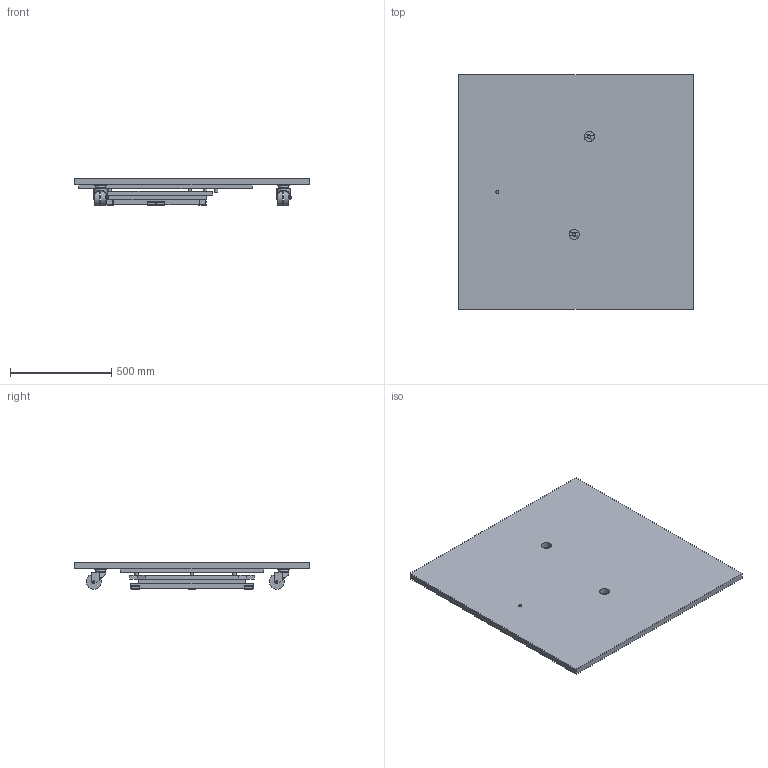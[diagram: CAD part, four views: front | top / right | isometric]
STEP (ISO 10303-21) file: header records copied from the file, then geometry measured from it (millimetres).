
FILE_DESCRIPTION( ( 'STEP AP214' ), '1' );
FILE_NAME( 'D:/YUG/2025/Missing_article_list/Creation/roomspin_1200_90.stp', '2025-04-02T11:19:47', ( '' ), ( '' ), ' ', 'PARTsolutions', ' ' );
FILE_SCHEMA( ( 'AUTOMOTIVE_DESIGN { 1 0 10303 214 1 1 1 1 }' ) );
Length unit declared in the file: millimetre
Products named in the file (5): 207353311 dummy_rs1200 _90; _base_element_1200; _functional_element_1200; _base_plate_1200; _roles
Assembly tree (7 placements, depth 2):
  207353311 dummy_rs1200 _90
    _base_element_1200
    _functional_element_1200
    _base_plate_1200
    _roles  x4
Bounding box: 1162 x 1162 x 131 mm (x, y, z)
Volume: 66453164.5 mm3; surface area: 5256086.2 mm2
Topology: 7 solids, 15 shells, 428 faces, 1016 edges, 666 vertices
Faces by surface type: plane 286, cylinder 138, bspline 4
Full cylindrical faces by diameter (mm): 5 x16, 5.4 x13, 8 x6, 8.3 x2, 9 x4, 10 x20, 15 x1, 16 x4, 50 x4, 75 x8
Entity records: 9905 total; most frequent: CARTESIAN_POINT 1311, DIRECTION 1298, ORIENTED_EDGE 1176, EDGE_CURVE 588, LINE 436, VECTOR 436, AXIS2_PLACEMENT_3D 431, VERTEX_POINT 416
